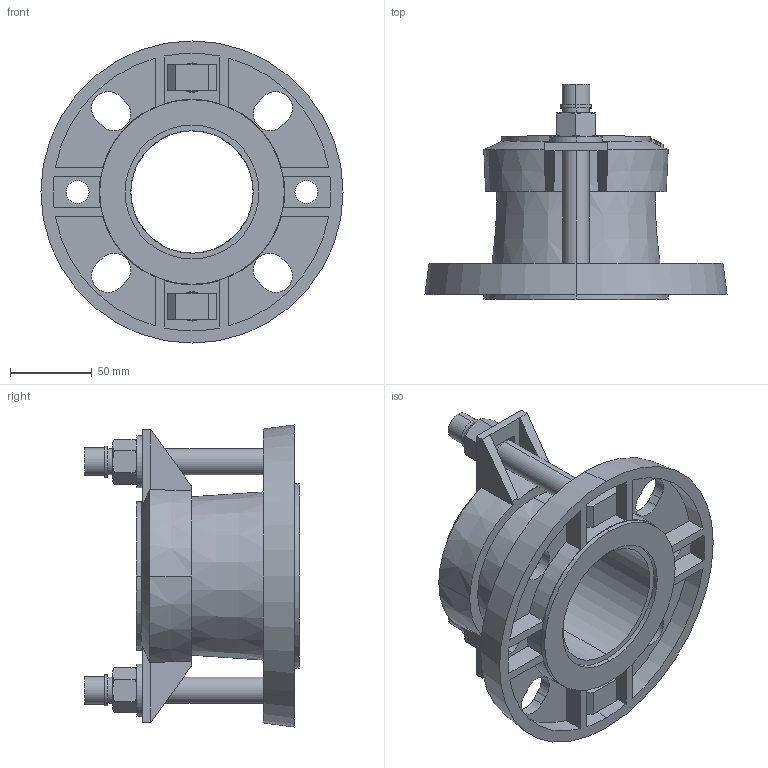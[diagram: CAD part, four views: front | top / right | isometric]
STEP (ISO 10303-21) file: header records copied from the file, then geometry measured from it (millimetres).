
FILE_DESCRIPTION (( 'STEP AP203' ), '1' );
FILE_NAME ('O_623_10_DN065-75mm_X1XXXXX_REV01.step', '2020-04-17T08:23:16', ( '' ), ( '' ), 'SwSTEP 2.0', 'SolidWorks 2019', '' );
FILE_SCHEMA (( 'CONFIG_CONTROL_DESIGN' ));
Length unit declared in the file: millimetre
Products named in the file (1): O_623_10_DN065-75mm_X1XXXXX_REV01
Bounding box: 185 x 131.5 x 185 mm (x, y, z)
Volume: 681449.4 mm3; surface area: 146853 mm2
Topology: 1 solids, 1 shells, 284 faces, 717 edges, 457 vertices
Faces by surface type: plane 152, cylinder 90, cone 40, bspline 2
Entity records: 8946 total; most frequent: CARTESIAN_POINT 2094, ORIENTED_EDGE 1434, DIRECTION 1362, EDGE_CURVE 717, AXIS2_PLACEMENT_3D 508, VERTEX_POINT 457, LINE 346, VECTOR 346
